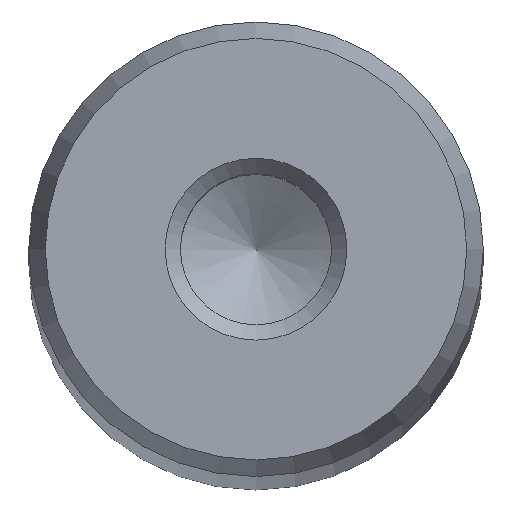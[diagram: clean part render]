
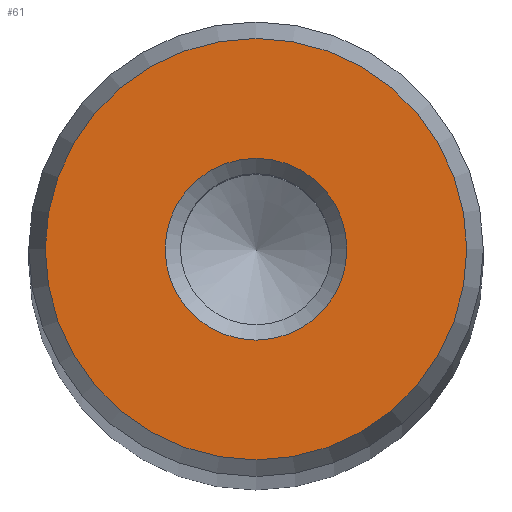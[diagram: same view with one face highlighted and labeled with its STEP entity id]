
A CAD part, top view. The second image highlights one B-rep face of the part: STEP entity #61.
In plain terms, the highlighted planar face has unit normal (0, 0, 1).
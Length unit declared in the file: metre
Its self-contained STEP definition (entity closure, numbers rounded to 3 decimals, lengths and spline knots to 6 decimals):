
#61 = ADVANCED_FACE( '', ( #128, #129 ), #130, .T. );
#128 = FACE_OUTER_BOUND( '', #187, .T. );
#129 = FACE_BOUND( '', #188, .T. );
#130 = PLANE( '', #189 );
#187 = EDGE_LOOP( '', ( #264 ) );
#188 = EDGE_LOOP( '', ( #265 ) );
#189 = AXIS2_PLACEMENT_3D( '', #266, #267, #268 );
#264 = ORIENTED_EDGE( '', *, *, #277, .T. );
#265 = ORIENTED_EDGE( '', *, *, #294, .T. );
#266 = CARTESIAN_POINT( '', ( 0., 0., 0.342 ) );
#267 = DIRECTION( '', ( 0., 0., 1. ) );
#268 = DIRECTION( '', ( 1., 0., 0. ) );
#277 = EDGE_CURVE( '', #309, #309, #310, .T. );
#294 = EDGE_CURVE( '', #330, #330, #331, .T. );
#309 = VERTEX_POINT( '', #346 );
#310 = CIRCLE( '', #347, 0.009272 );
#330 = VERTEX_POINT( '', #367 );
#331 = CIRCLE( '', #368, 0.004 );
#346 = CARTESIAN_POINT( '', ( 0.009272, 0., 0.342 ) );
#347 = AXIS2_PLACEMENT_3D( '', #385, #386, #387 );
#367 = CARTESIAN_POINT( '', ( 0.004, 0., 0.342 ) );
#368 = AXIS2_PLACEMENT_3D( '', #403, #404, #405 );
#385 = CARTESIAN_POINT( '', ( 0., 0., 0.342 ) );
#386 = DIRECTION( '', ( 0., 0., 1. ) );
#387 = DIRECTION( '', ( 1., 0., 0. ) );
#403 = CARTESIAN_POINT( '', ( 0., 0., 0.342 ) );
#404 = DIRECTION( '', ( 0., 0., -1. ) );
#405 = DIRECTION( '', ( 1., 0., 0. ) );
